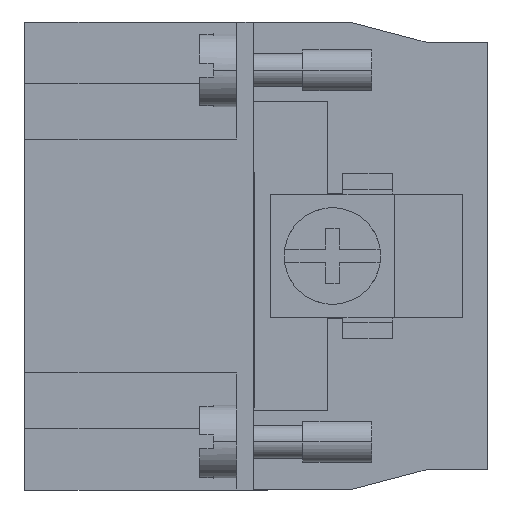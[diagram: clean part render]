
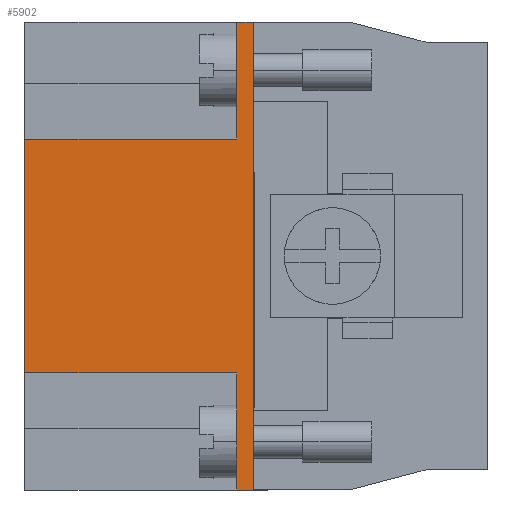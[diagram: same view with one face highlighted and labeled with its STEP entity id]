
A CAD part, left-side view. The second image highlights one B-rep face of the part: STEP entity #5902.
In plain terms, the highlighted planar face has unit normal (-1, 0, 0).
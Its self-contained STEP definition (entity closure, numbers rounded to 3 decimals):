
#1322 = ORIENTED_EDGE ( 'NONE', *, *, #7931, .T. ) ;
#1401 = CARTESIAN_POINT ( 'NONE',  ( -42.25, -16.6, 17. ) ) ;
#1447 = CARTESIAN_POINT ( 'NONE',  ( -42.25, -15.4, 17. ) ) ;
#2762 = VERTEX_POINT ( 'NONE', #4186 ) ;
#3338 = DIRECTION ( 'NONE',  ( 0., -1., 0. ) ) ;
#3432 = CARTESIAN_POINT ( 'NONE',  ( -42.25, -38.001, -8.5 ) ) ;
#3445 = CARTESIAN_POINT ( 'NONE',  ( -42.25, -38.001, -8.5 ) ) ;
#3636 = LINE ( 'NONE', #17406, #9248 ) ;
#4170 = CARTESIAN_POINT ( 'NONE',  ( -42.25, -15.4, -17. ) ) ;
#4186 = CARTESIAN_POINT ( 'NONE',  ( -42.25, 0., 8.5 ) ) ;
#4292 = ORIENTED_EDGE ( 'NONE', *, *, #16634, .F. ) ;
#4638 = EDGE_CURVE ( 'NONE', #7746, #7080, #18360, .T. ) ;
#4852 = LINE ( 'NONE', #6409, #9008 ) ;
#5336 = VERTEX_POINT ( 'NONE', #18140 ) ;
#5902 = ADVANCED_FACE ( 'NONE', ( #14557 ), #24008, .F. ) ;
#5914 = VERTEX_POINT ( 'NONE', #1401 ) ;
#6409 = CARTESIAN_POINT ( 'NONE',  ( -42.25, -15.4, 17. ) ) ;
#6644 = VECTOR ( 'NONE', #16001, 1000. ) ;
#6828 = ORIENTED_EDGE ( 'NONE', *, *, #14864, .T. ) ;
#7080 = VERTEX_POINT ( 'NONE', #19632 ) ;
#7268 = AXIS2_PLACEMENT_3D ( 'NONE', #3445, #23933, #20223 ) ;
#7411 = CARTESIAN_POINT ( 'NONE',  ( -42.25, -15.4, 8.5 ) ) ;
#7746 = VERTEX_POINT ( 'NONE', #17477 ) ;
#7837 = EDGE_CURVE ( 'NONE', #7080, #5336, #9467, .T. ) ;
#7931 = EDGE_CURVE ( 'NONE', #17201, #2762, #21995, .T. ) ;
#8417 = VECTOR ( 'NONE', #15968, 1000. ) ;
#8493 = EDGE_CURVE ( 'NONE', #16497, #5914, #17150, .T. ) ;
#8762 = EDGE_CURVE ( 'NONE', #2762, #5336, #3636, .T. ) ;
#9008 = VECTOR ( 'NONE', #17330, 1000. ) ;
#9248 = VECTOR ( 'NONE', #19014, 1000. ) ;
#9467 = LINE ( 'NONE', #3432, #15892 ) ;
#10888 = ORIENTED_EDGE ( 'NONE', *, *, #4638, .F. ) ;
#11678 = ORIENTED_EDGE ( 'NONE', *, *, #11715, .T. ) ;
#11715 = EDGE_CURVE ( 'NONE', #12747, #5914, #13142, .T. ) ;
#12747 = VERTEX_POINT ( 'NONE', #20776 ) ;
#13142 = LINE ( 'NONE', #16179, #15484 ) ;
#14557 = FACE_OUTER_BOUND ( 'NONE', #22389, .T. ) ;
#14864 = EDGE_CURVE ( 'NONE', #7746, #12747, #18954, .T. ) ;
#15193 = CARTESIAN_POINT ( 'NONE',  ( -42.25, -15.4, 17. ) ) ;
#15307 = ORIENTED_EDGE ( 'NONE', *, *, #8762, .T. ) ;
#15484 = VECTOR ( 'NONE', #15845, 1000. ) ;
#15845 = DIRECTION ( 'NONE',  ( 0., 0., 1. ) ) ;
#15892 = VECTOR ( 'NONE', #22170, 1000. ) ;
#15968 = DIRECTION ( 'NONE',  ( 0., 0., 1. ) ) ;
#16001 = DIRECTION ( 'NONE',  ( 0., -1., 0. ) ) ;
#16179 = CARTESIAN_POINT ( 'NONE',  ( -42.25, -16.6, -8.5 ) ) ;
#16497 = VERTEX_POINT ( 'NONE', #15193 ) ;
#16634 = EDGE_CURVE ( 'NONE', #17201, #16497, #4852, .T. ) ;
#17150 = LINE ( 'NONE', #1447, #20880 ) ;
#17201 = VERTEX_POINT ( 'NONE', #7411 ) ;
#17330 = DIRECTION ( 'NONE',  ( 0., 0., 1. ) ) ;
#17406 = CARTESIAN_POINT ( 'NONE',  ( -42.25, 0., -8.5 ) ) ;
#17477 = CARTESIAN_POINT ( 'NONE',  ( -42.25, -15.4, -17. ) ) ;
#18140 = CARTESIAN_POINT ( 'NONE',  ( -42.25, 0., -8.5 ) ) ;
#18360 = LINE ( 'NONE', #19453, #8417 ) ;
#18954 = LINE ( 'NONE', #4170, #6644 ) ;
#19014 = DIRECTION ( 'NONE',  ( 0., 0., -1. ) ) ;
#19453 = CARTESIAN_POINT ( 'NONE',  ( -42.25, -15.4, 17. ) ) ;
#19632 = CARTESIAN_POINT ( 'NONE',  ( -42.25, -15.4, -8.5 ) ) ;
#19703 = DIRECTION ( 'NONE',  ( 0., 1., 0. ) ) ;
#20223 = DIRECTION ( 'NONE',  ( 0., 1., 0. ) ) ;
#20243 = VECTOR ( 'NONE', #19703, 1000. ) ;
#20776 = CARTESIAN_POINT ( 'NONE',  ( -42.25, -16.6, -17. ) ) ;
#20880 = VECTOR ( 'NONE', #3338, 1000. ) ;
#21358 = ORIENTED_EDGE ( 'NONE', *, *, #8493, .F. ) ;
#21570 = ORIENTED_EDGE ( 'NONE', *, *, #7837, .F. ) ;
#21995 = LINE ( 'NONE', #23550, #20243 ) ;
#22170 = DIRECTION ( 'NONE',  ( 0., 1., 0. ) ) ;
#22389 = EDGE_LOOP ( 'NONE', ( #11678, #21358, #4292, #1322, #15307, #21570, #10888, #6828 ) ) ;
#23550 = CARTESIAN_POINT ( 'NONE',  ( -42.25, -38.001, 8.5 ) ) ;
#23933 = DIRECTION ( 'NONE',  ( 1., 0., 0. ) ) ;
#24008 = PLANE ( 'NONE',  #7268 ) ;
